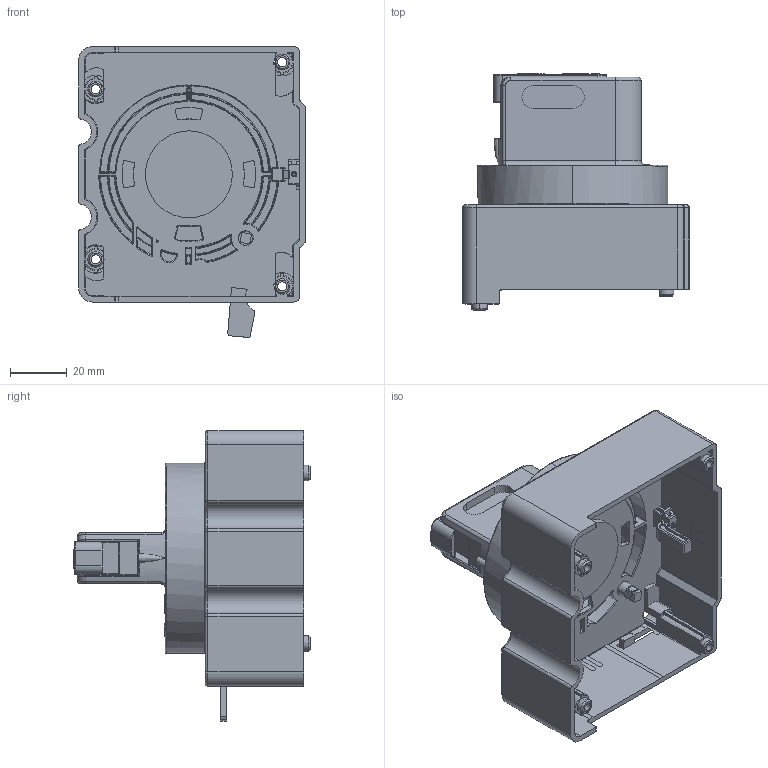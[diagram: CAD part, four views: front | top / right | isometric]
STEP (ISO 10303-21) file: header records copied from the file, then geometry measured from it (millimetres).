
FILE_DESCRIPTION(/* description */ (''),/* implementation_level */ '2;1');
FILE_NAME(/* name */ 'TFG16GP_3D DATA.stp',/* time_stamp */ '2018-06-05T09:21:03+09:00',/* author */ (''),/* organization */ (''),/* preprocessor_version */ 'ST-DEVELOPER v15',/* originating_system */ 'SIEMENS PLM Software NX 9.0',/* authorisation */ '');
FILE_SCHEMA (('AP203_CONFIGURATION_CONTROLLED_3D_DESIGN_OF_MECHANICAL_PARTS_AND_ASSEMBLIES_MIM_LF { 1 0 10303 403 2 1 2}'));
Products named in the file (9): G1_HM_HANDLE; G1_HM_LOCK_BUTTON; U1_HM_FRAME; U1_HM_TRIP_BUTTON; G1_HM_RELEASE_PIN; U1_HM_RELEASE_G_LEVER; G1_HM_TFG_UPPER_LABEL; G1_HM_HANDLE_ASSY_ASM; u1_hm_tfg_u4_base_assy_asm_stp
Assembly tree (8 placements, depth 3):
  u1_hm_tfg_u4_base_assy_asm_stp
    G1_HM_TFG_UPPER_LABEL
    U1_HM_RELEASE_G_LEVER
    G1_HM_RELEASE_PIN
    U1_HM_TRIP_BUTTON
    G1_HM_HANDLE_ASSY_ASM
      G1_HM_LOCK_BUTTON
      G1_HM_HANDLE
    U1_HM_FRAME
Bounding box: 79.9 x 83.4 x 102.48 mm (x, y, z)
Volume: 89705.8 mm3; surface area: 69392.3 mm2
Topology: 7 solids, 8 shells, 2017 faces, 5282 edges, 3278 vertices
Faces by surface type: plane 882, cylinder 577, torus 224, bspline 107, sphere 97, cone 76, extrusion 54
Full cylindrical faces by diameter (mm): 30.6 x1
Entity records: 69689 total; most frequent: CARTESIAN_POINT 19857, ORIENTED_EDGE 10416, DIRECTION 10040, EDGE_CURVE 5208, AXIS2_PLACEMENT_3D 3532, VERTEX_POINT 3277, VECTOR 2976, LINE 2922
